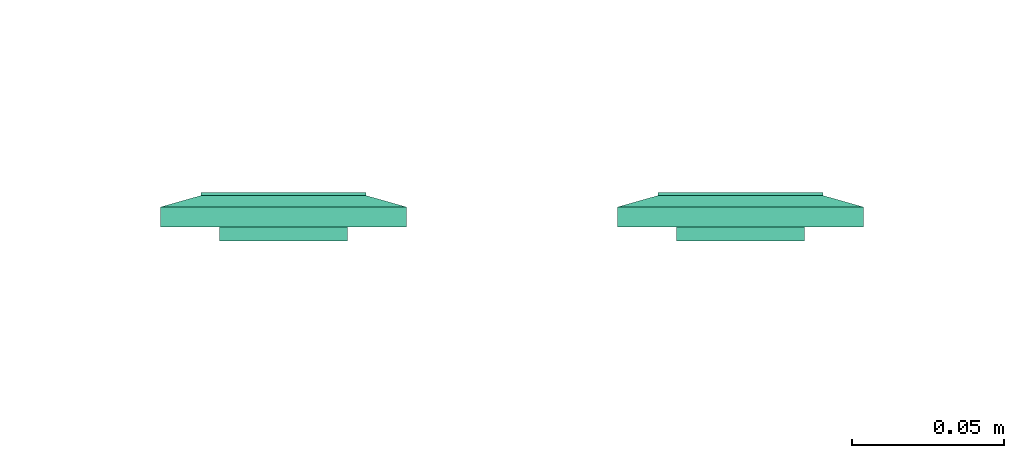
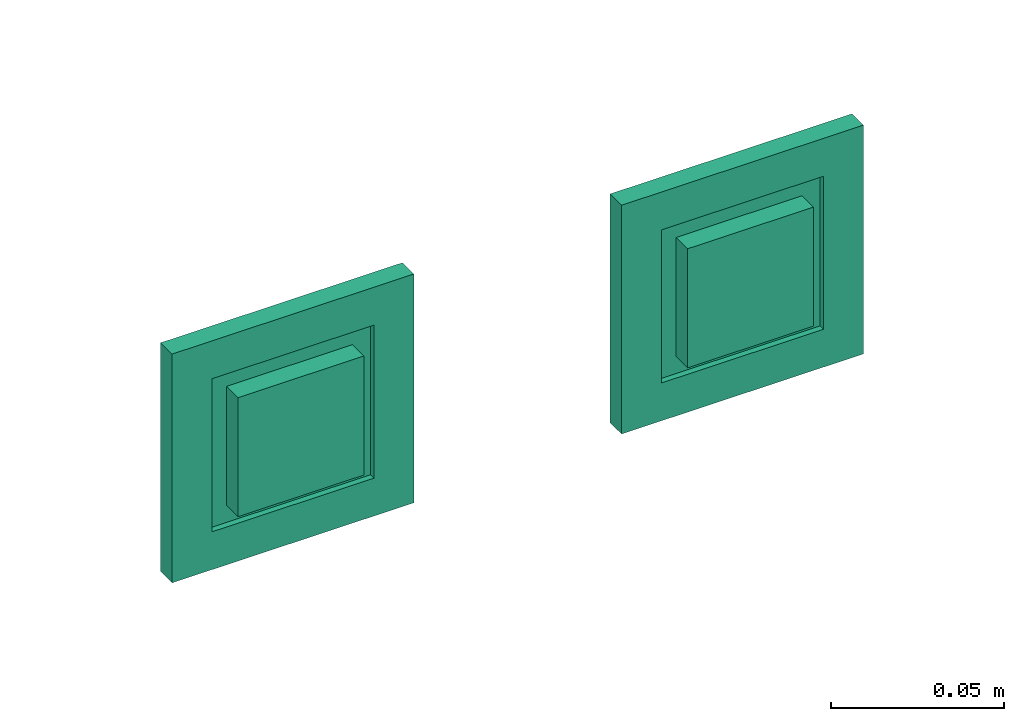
# One storey, part 77 of 146: 2 flow terminals.
"""IFC2X3 building model written with IfcOpenShell, lengths in metres."""

from ifc_helpers import new_model, entity, si_unit, converted_unit, derived_unit, direction, frame, origin, place, context, subcontext, project, spatial, faceted_brep, source, transform, mapped, type_object, type_shapes, element, save


model = new_model("IFC2X3")

# Units and contexts
model_context = context("Model", 3, precision=1e-05, world=origin(), true_north=direction((6.12303176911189e-17, 1.0)))
body_context = subcontext(model_context, "Body", "Model", "MODEL_VIEW")
ifc_project = project(units=[si_unit("LENGTHUNIT", "METRE"), si_unit("AREAUNIT", "SQUARE_METRE"), si_unit("VOLUMEUNIT", "CUBIC_METRE"), converted_unit("PLANEANGLEUNIT", "DEGREE", entity("IfcRatioMeasure", 0.0174532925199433), si_unit("PLANEANGLEUNIT", "RADIAN"), dimensions=[0, 0, 0, 0, 0, 0, 0]), si_unit("MASSUNIT", "GRAM", prefix="KILO"), derived_unit("MASSDENSITYUNIT", [(si_unit("MASSUNIT", "GRAM", prefix="KILO"), 1), (si_unit("LENGTHUNIT", "METRE"), -3)]), si_unit("TIMEUNIT", "SECOND"), si_unit("FREQUENCYUNIT", "HERTZ"), si_unit("THERMODYNAMICTEMPERATUREUNIT", "DEGREE_CELSIUS"), derived_unit("THERMALTRANSMITTANCEUNIT", [(si_unit("MASSUNIT", "GRAM", prefix="KILO"), 1), (si_unit("THERMODYNAMICTEMPERATUREUNIT", "KELVIN"), -1), (si_unit("TIMEUNIT", "SECOND"), -3)]), derived_unit("VOLUMETRICFLOWRATEUNIT", [(si_unit("LENGTHUNIT", "METRE"), 3), (si_unit("TIMEUNIT", "SECOND"), -1)]), si_unit("ELECTRICCURRENTUNIT", "AMPERE"), si_unit("ELECTRICVOLTAGEUNIT", "VOLT"), si_unit("POWERUNIT", "WATT"), si_unit("FORCEUNIT", "NEWTON"), si_unit("ILLUMINANCEUNIT", "LUX"), si_unit("LUMINOUSFLUXUNIT", "LUMEN"), si_unit("LUMINOUSINTENSITYUNIT", "CANDELA"), derived_unit("USERDEFINED", [(si_unit("MASSUNIT", "GRAM", prefix="KILO"), -1), (si_unit("LENGTHUNIT", "METRE"), -2), (si_unit("TIMEUNIT", "SECOND"), 3), (si_unit("LUMINOUSFLUXUNIT", "LUMEN"), 1)]), derived_unit("LINEARVELOCITYUNIT", [(si_unit("LENGTHUNIT", "METRE"), 1), (si_unit("TIMEUNIT", "SECOND"), -1)]), si_unit("PRESSUREUNIT", "PASCAL"), derived_unit("USERDEFINED", [(si_unit("LENGTHUNIT", "METRE"), -2), (si_unit("MASSUNIT", "GRAM", prefix="KILO"), 1), (si_unit("TIMEUNIT", "SECOND"), -2)])], contexts=[model_context])

# Site, building, storey
site_placement = place(None, origin())
site = spatial("IfcSite", under=ifc_project, at=site_placement, Name="Default", CompositionType="ELEMENT")
building_placement = place(site_placement, origin())
building = spatial("IfcBuilding", under=site, at=building_placement, CompositionType="ELEMENT")
storey_placement = place(building_placement, origin())
storey = spatial("IfcBuildingStorey", under=building, at=storey_placement, Name="S01", CompositionType="ELEMENT", Elevation=0.0)

# Flow terminals
electric_appliance_type = type_object("IfcElectricApplianceType", Name="RJ45 IP20", PredefinedType="NOTDEFINED")
shared_shape = source(origin(), body_context, "Body", "Brep", [
    faceted_brep([(0.00200000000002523, 0.0, 0.00799999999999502), (0.00400000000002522, 0.0, 0.00799999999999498), (0.00500000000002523, 0.00199999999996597, 0.00799999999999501), (0.0110000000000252, 0.00199999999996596, 0.00799999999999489), (0.0120000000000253, 0.0, 0.00799999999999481), (0.0140000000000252, 0.0, 0.00799999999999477), (0.0140000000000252, 0.00399999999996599, 0.00799999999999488), (0.00200000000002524, 0.00399999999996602, 0.00799999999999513), (0.00200000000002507, 0.0, 0.0), (0.00200000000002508, 0.00399999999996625, 0.0), (0.0140000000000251, 0.00399999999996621, 0.0), (0.0140000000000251, 0.0, 0.0), (0.0120000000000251, 0.0, 0.0), (0.0110000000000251, 0.00199999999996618, 0.0), (0.00500000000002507, 0.0019999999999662, 0.0), (0.00400000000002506, 0.0, 0.0)], [[[0, 1, 2, 3, 4, 5, 6, 7]], [[8, 9, 10, 11, 12, 13, 14, 15]], [[1, 0, 8, 15]], [[2, 1, 15, 14]], [[3, 2, 14, 13]], [[4, 3, 13, 12]], [[5, 4, 12, 11]], [[6, 5, 11, 10]], [[7, 6, 10, 9]], [[0, 7, 9, 8]]]),
    faceted_brep([(-0.0139999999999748, 0.0, 0.00799999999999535), (-0.0119999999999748, 0.0, 0.00799999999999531), (-0.0109999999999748, 0.00199999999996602, 0.00799999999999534), (-0.00499999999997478, 0.00199999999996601, 0.00799999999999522), (-0.0039999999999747, 0.0, 0.00799999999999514), (-0.00199999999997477, 0.0, 0.0079999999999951), (-0.00199999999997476, 0.00399999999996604, 0.00799999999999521), (-0.0139999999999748, 0.00399999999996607, 0.00799999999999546), (-0.0139999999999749, 0.0, 0.0), (-0.0139999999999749, 0.00399999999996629, 0.0), (-0.00199999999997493, 0.00399999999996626, 0.0), (-0.00199999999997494, 0.0, 0.0), (-0.00399999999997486, 0.0, 0.0), (-0.00499999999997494, 0.00199999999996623, 0.0), (-0.0109999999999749, 0.00199999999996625, 0.0), (-0.0119999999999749, 0.0, 0.0)], [[[0, 1, 2, 3, 4, 5, 6, 7]], [[8, 9, 10, 11, 12, 13, 14, 15]], [[1, 0, 8, 15]], [[2, 1, 15, 14]], [[3, 2, 14, 13]], [[4, 3, 13, 12]], [[5, 4, 12, 11]], [[6, 5, 11, 10]], [[7, 6, 10, 9]], [[0, 7, 9, 8]]]),
    faceted_brep([(0.0140000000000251, 0.00399999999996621, 0.0), (0.00200000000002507, 0.00399999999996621, 0.0), (0.00200000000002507, -0.00350000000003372, 0.0), (0.0140000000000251, -0.00350000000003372, 0.0), (0.0140000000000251, 0.00399999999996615, 0.00199999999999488), (0.00200000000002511, 0.00399999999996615, 0.00199999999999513), (0.00200000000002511, -0.00393859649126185, 0.00199999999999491), (0.0140000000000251, -0.00393859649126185, 0.00199999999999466), (0.0210000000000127, 0.0209999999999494, 0.00199999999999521), (-0.0209999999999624, 0.0209999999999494, 0.00199999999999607), (-0.0209999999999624, -0.0210000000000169, 0.00199999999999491), (0.0210000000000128, -0.0210000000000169, 0.00199999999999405), (-0.0139999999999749, 0.0039999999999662, 0.00199999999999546), (-0.0019999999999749, 0.0039999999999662, 0.00199999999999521), (-0.00199999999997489, -0.0039385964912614, 0.00199999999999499), (-0.0139999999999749, -0.00393859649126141, 0.00199999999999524), (0.0210000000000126, 0.0209999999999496, -0.00460000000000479), (0.0210000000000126, -0.0210000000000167, -0.00460000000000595), (-0.0209999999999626, -0.0210000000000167, -0.00460000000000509), (-0.0209999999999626, 0.0209999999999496, -0.00460000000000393), (-0.00199999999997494, 0.00399999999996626, 0.0), (-0.0139999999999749, 0.00399999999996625, 0.0), (-0.0139999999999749, -0.00350000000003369, 0.0), (-0.00199999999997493, -0.00350000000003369, 0.0)], [[[0, 1, 2, 3]], [[1, 0, 4, 5]], [[2, 1, 5, 6]], [[3, 2, 6, 7]], [[0, 3, 7, 4]], [[5, 4, 7, 6], [8, 9, 10, 11], [12, 13, 14, 15]], [[16, 17, 18, 19]], [[9, 8, 16, 19]], [[10, 9, 19, 18]], [[11, 10, 18, 17]], [[8, 11, 17, 16]], [[20, 21, 22, 23]], [[21, 20, 13, 12]], [[22, 21, 12, 15]], [[23, 22, 15, 14]], [[20, 23, 14, 13]]], outer=[[True], [True], [True], [True], [True], [False, True, False], [True], [True], [True], [True], [True], [True], [True], [True], [True], [True]]),
    faceted_brep([(0.0270000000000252, 0.026999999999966, 0.0113999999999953), (-0.0269999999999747, 0.026999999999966, 0.0113999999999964), (-0.0269999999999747, -0.0270000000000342, 0.0113999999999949), (0.0270000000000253, -0.0270000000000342, 0.0113999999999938), (0.0020000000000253, 0.00399999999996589, 0.0113999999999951), (0.0140000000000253, 0.00399999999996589, 0.0113999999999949), (0.0140000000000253, -0.00600000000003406, 0.0113999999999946), (0.0020000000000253, -0.00600000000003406, 0.0113999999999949), (-0.0139999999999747, 0.00399999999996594, 0.0113999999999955), (-0.00199999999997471, 0.00399999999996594, 0.0113999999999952), (-0.00199999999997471, -0.0060000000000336, 0.0113999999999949), (-0.0139999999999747, -0.00600000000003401, 0.0113999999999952), (0.0270000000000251, 0.0269999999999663, 0.00199999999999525), (0.0270000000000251, -0.0270000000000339, 0.00199999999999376), (-0.0269999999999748, -0.0270000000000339, 0.00199999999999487), (-0.0269999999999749, 0.0269999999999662, 0.00199999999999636), (0.0140000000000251, 0.00399999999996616, 0.00199999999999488), (0.00200000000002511, 0.00399999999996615, 0.00199999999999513), (0.00200000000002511, -0.00393859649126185, 0.00199999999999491), (0.0140000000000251, -0.00393859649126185, 0.00199999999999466), (-0.00199999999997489, 0.0039999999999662, 0.00199999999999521), (-0.0139999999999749, 0.0039999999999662, 0.00199999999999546), (-0.0139999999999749, -0.0039385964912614, 0.00199999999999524), (-0.00199999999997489, -0.0039385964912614, 0.00199999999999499)], [[[0, 1, 2, 3], [4, 5, 6, 7], [8, 9, 10, 11]], [[12, 13, 14, 15], [16, 17, 18, 19], [20, 21, 22, 23]], [[1, 0, 12, 15]], [[2, 1, 15, 14]], [[3, 2, 14, 13]], [[0, 3, 13, 12]], [[4, 17, 16, 5]], [[17, 4, 7, 18]], [[18, 7, 6, 19]], [[5, 16, 19, 6]], [[8, 21, 20, 9]], [[21, 8, 11, 22]], [[22, 11, 10, 23]], [[9, 20, 23, 10]]]),
    faceted_brep([(0.027000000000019, 0.0269999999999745, 0.00659999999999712), (-0.0269999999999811, 0.0269999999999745, 0.00659999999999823), (-0.026999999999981, -0.0270000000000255, 0.00659999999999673), (0.027000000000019, -0.0270000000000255, 0.00659999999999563), (0.040350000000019, 0.0403499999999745, 0.00659999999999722), (0.040350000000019, -0.0403500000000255, 0.00659999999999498), (-0.0403499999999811, -0.0403500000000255, 0.00659999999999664), (-0.0403499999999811, 0.0403499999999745, 0.00659999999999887), (-0.026999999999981, 0.0269999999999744, 0.0103999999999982), (0.027000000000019, 0.0269999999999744, 0.0103999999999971), (-0.026999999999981, -0.0270000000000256, 0.0103999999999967), (0.027000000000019, -0.0270000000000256, 0.0103999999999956)], [[[0, 1, 2, 3], [4, 5, 6, 7]], [[4, 7, 8, 9]], [[7, 6, 10, 8]], [[6, 5, 11, 10]], [[5, 4, 9, 11]], [[0, 9, 8, 1]], [[1, 8, 10, 2]], [[2, 10, 11, 3]], [[9, 0, 3, 11]]], outer=[[False, True], [True], [True], [True], [True], [True], [True], [True], [True]]),
    faceted_brep([(0.040350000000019, 0.0403499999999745, 0.00659999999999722), (-0.0403499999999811, 0.0403499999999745, 0.00659999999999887), (-0.0403499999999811, -0.0403500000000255, 0.00659999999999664), (0.040350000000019, -0.0403500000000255, 0.00659999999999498), (-0.0269999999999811, 0.0269999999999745, 0.00659999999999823), (0.0270000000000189, 0.0269999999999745, 0.00659999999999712), (0.0270000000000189, -0.0270000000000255, 0.00659999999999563), (-0.0269999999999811, -0.0270000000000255, 0.00659999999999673), (0.0403500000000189, 0.0403499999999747, 0.0), (0.0403500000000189, -0.0403500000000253, 0.0), (-0.0403499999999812, -0.0403500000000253, 0.0), (-0.0403499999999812, 0.0403499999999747, 0.0), (0.0270000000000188, 0.0269999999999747, 0.0), (-0.0269999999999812, 0.0269999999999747, 0.0), (-0.0269999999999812, -0.0270000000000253, 0.0), (0.0270000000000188, -0.0270000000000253, 0.0)], [[[0, 1, 2, 3], [4, 5, 6, 7]], [[8, 9, 10, 11], [12, 13, 14, 15]], [[1, 0, 8, 11]], [[2, 1, 11, 10]], [[3, 2, 10, 9]], [[0, 3, 9, 8]], [[12, 5, 4, 13]], [[13, 4, 7, 14]], [[14, 7, 6, 15]], [[5, 12, 15, 6]]]),
])
type_shapes(electric_appliance_type, [shared_shape])
for number, where, z_axis, x_axis in (
    (1, (61.8049396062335, -193.177069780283, 0.320000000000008), (0.0, 1.0, 0.0), (-1.0, 0.0, 0.0)),
    (2, (61.9549396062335, -193.177069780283, 0.320000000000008), (0.0, 1.0, 0.0), (-1.0, 0.0, 0.0)),
):
    element("IfcFlowTerminal", number, at=place(storey_placement, frame(where, z_axis=z_axis, x_axis=x_axis)), inside=storey, type_object=electric_appliance_type, Name="INT_Prise RJ45:RJ45 IP20", ObjectType="INT_Prise RJ45:RJ45 IP20", context=body_context, shape_type="MappedRepresentation", body=[
        mapped(shared_shape, transform((0.0, 0.0, 0.0), scale=1.0)),
    ])

save(model, "model.ifc")
